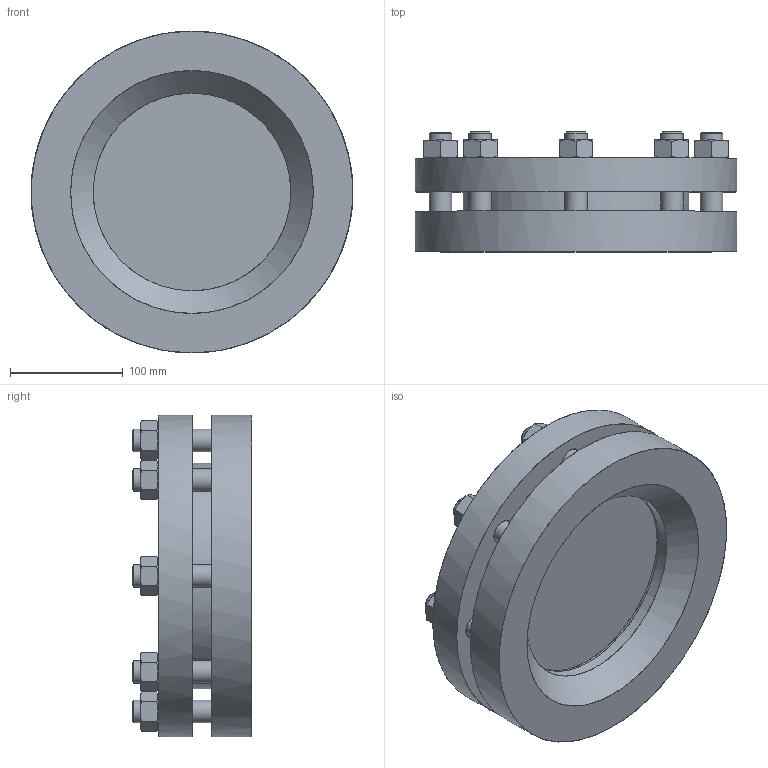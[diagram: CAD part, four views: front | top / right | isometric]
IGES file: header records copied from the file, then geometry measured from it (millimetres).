
Start section: C
Global section: file name: Armatur 28120  DN 150 PN10.igs; native system: By Siemens PLM Incorporated; preprocessor: XPlus GENERIC/IGES 18.0.17; author: Author; organization: Title; date: 20160808.080141; units: millimetre
Bounding box: 284.92 x 106 x 285 mm (x, y, z)
Surface area: 456594.9 mm2 (no closed solid volume)
Topology: 0 solids, 0 shells, 249 faces, 1363 edges, 1352 vertices
Faces by surface type: bspline 249
